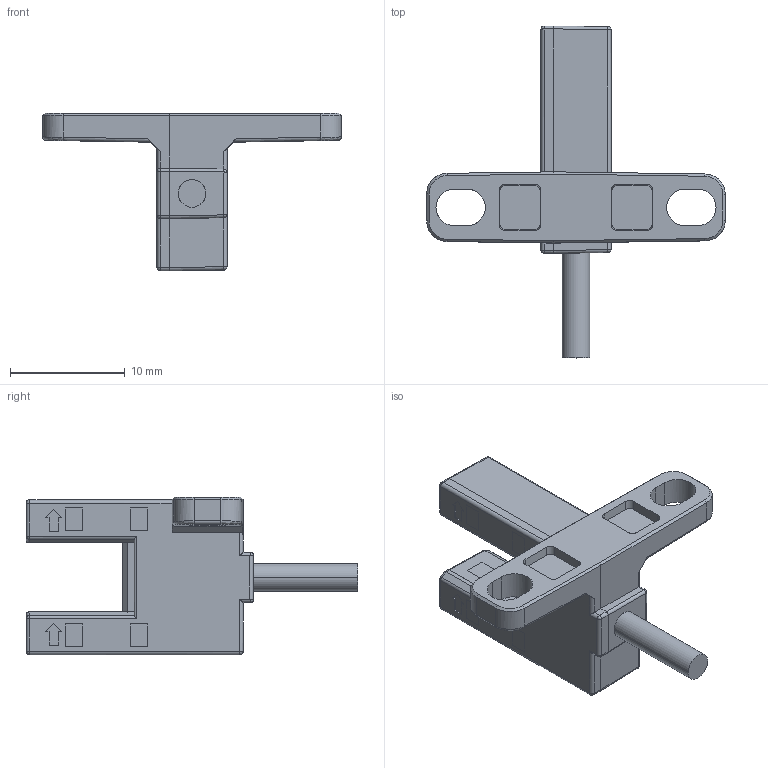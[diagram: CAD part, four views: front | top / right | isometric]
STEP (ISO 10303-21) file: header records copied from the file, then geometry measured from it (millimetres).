
FILE_DESCRIPTION((''),'2;1');
FILE_NAME('01_T45_ASM_HSG_ASM','2024-05-30T10:05:56',('PC'),(''),'CREO PARAMETRIC BY PTC INC, 2020033','CREO PARAMETRIC BY PTC INC, 2020033','');
FILE_SCHEMA(('CONFIG_CONTROL_DESIGN','SHAPE_APPEARANCE_LAYERS_GROUPS'));
Length unit declared in the file: millimetre
Products named in the file (4): 011_T45_CASE; 012_T45_INSIDE; 013_WIRE; 01_T45_ASM_HSG_ASM
Assembly tree (3 placements, depth 2):
  01_T45_ASM_HSG_ASM
    011_T45_CASE
    012_T45_INSIDE
    013_WIRE
Bounding box: 26 x 28.9 x 13.75 mm (x, y, z)
Volume: 1336.9 mm3; surface area: 2612 mm2
Topology: 9 solids, 9 shells, 618 faces, 1674 edges, 1073 vertices
Faces by surface type: plane 400, cylinder 164, bspline 44, cone 8, sphere 2
Entity records: 30730 total; most frequent: CARTESIAN_POINT 5972, ORIENTED_EDGE 3348, DIRECTION 2975, PRESENTATION_STYLE_ASSIGNMENT 2265, STYLED_ITEM 2261, CURVE_STYLE 1674, EDGE_CURVE 1674, VECTOR 1253
